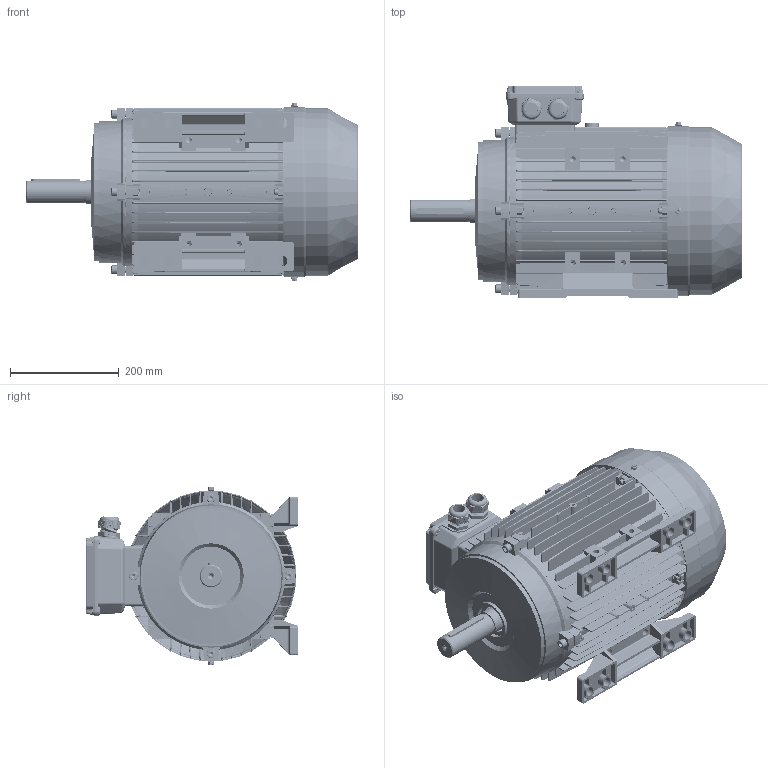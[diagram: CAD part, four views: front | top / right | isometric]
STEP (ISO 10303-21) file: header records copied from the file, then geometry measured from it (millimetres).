
FILE_DESCRIPTION (( 'STEP AP203' ), '1' );
FILE_NAME ('MS160 assembly B3 new TB.STEP', '2017-11-26T10:26:41', ( 'user' ), ( 'china' ), 'SwSTEP 2.0', 'SolidWorks 2016', '' );
FILE_SCHEMA (( 'CONFIG_CONTROL_DESIGN' ));
Length unit declared in the file: millimetre
Products named in the file (18): MS160 綴裔瑞欶郪磁_MS; M160傷裔B3_Post; GB-T 29.2-1988 M6鞠褒坋趼湍菜_08; MS160 assembly B3 new TB; GB-T 29.2-1988 M5_10; M32 cable gland; GB-T 41-2000 M10; M160菁褐; GB-T 5780-2000 M10_045; M160堤盄碟(陔); M160傷裔B3_Drive; M160-Shaft ; M160諉盄碟裔(陔)_MS160; M160瑞欶_136; M160儂褲; GB-T 70.1-2000 M10_040; GB-T 29.2-1988 M6鞠褒坋趼湍菜_12; M160堤盄碟釱(陔)_MS160
Assembly tree (39 placements, depth 3):
  MS160 assembly B3 new TB
    M160儂褲
    M160-Shaft 
    M160堤盄碟(陔)
      M160堤盄碟釱(陔)_MS160
      M160諉盄碟裔(陔)_MS160
      GB-T 29.2-1988 M5_10  x4
      M32 cable gland  x2
    MS160 綴裔瑞欶郪磁_MS
      M160傷裔B3_Post
      M160瑞欶_136
      GB-T 29.2-1988 M6鞠褒坋趼湍菜_08  x3
      GB-T 29.2-1988 M6鞠褒坋趼湍菜_12  x3
    M160菁褐  x2
    GB-T 41-2000 M10  x8
    GB-T 70.1-2000 M10_040  x4
    GB-T 5780-2000 M10_045  x4
    M160傷裔B3_Drive
Bounding box: 609.99 x 390 x 326 mm (x, y, z)
Volume: 5612785.6 mm3; surface area: 2315221.7 mm2
Topology: 39 solids, 39 shells, 7600 faces, 20306 edges, 12789 vertices
Faces by surface type: plane 3137, cylinder 2851, cone 692, bspline 689, torus 165, sphere 66
Entity records: 238673 total; most frequent: CARTESIAN_POINT 83070, ORIENTED_EDGE 33378, DIRECTION 30658, EDGE_CURVE 16689, AXIS2_PLACEMENT_3D 10847, VERTEX_POINT 10688, VECTOR 8964, LINE 8964
